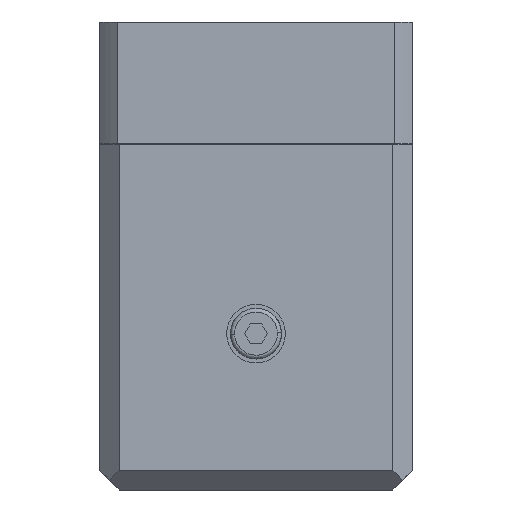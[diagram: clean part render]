
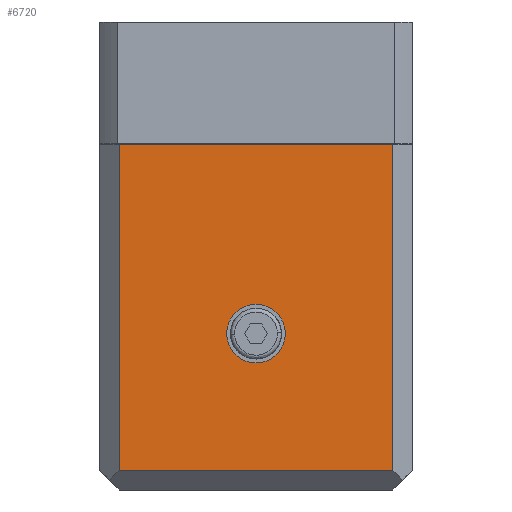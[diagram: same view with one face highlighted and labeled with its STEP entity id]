
A CAD part, left-side view. The second image highlights one B-rep face of the part: STEP entity #6720.
In plain terms, the highlighted planar face has unit normal (-1, 0, 0).
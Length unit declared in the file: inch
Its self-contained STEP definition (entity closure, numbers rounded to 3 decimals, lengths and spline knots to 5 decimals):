
#501 = DIRECTION ( 'NONE',  ( 0., 0., 1. ) ) ;
#568 = CARTESIAN_POINT ( 'NONE',  ( -7.24409, 0., 0. ) ) ;
#961 = CARTESIAN_POINT ( 'NONE',  ( -7.24409, 1.37795, 1.90551 ) ) ;
#1135 = CARTESIAN_POINT ( 'NONE',  ( -7.24409, -1.37795, -1.37795 ) ) ;
#1398 = CIRCLE ( 'NONE', #10341, 0.29528 ) ;
#1640 = DIRECTION ( 'NONE',  ( 0., 0., 1. ) ) ;
#1732 = CARTESIAN_POINT ( 'NONE',  ( -7.24409, 0., 0. ) ) ;
#1811 = FACE_BOUND ( 'NONE', #12477, .T. ) ;
#2785 = CARTESIAN_POINT ( 'NONE',  ( -7.24409, 0., 1.90551 ) ) ;
#2868 = ORIENTED_EDGE ( 'NONE', *, *, #6209, .F. ) ;
#3693 = CARTESIAN_POINT ( 'NONE',  ( -7.24409, -1.37795, 1.90551 ) ) ;
#3711 = ORIENTED_EDGE ( 'NONE', *, *, #7466, .T. ) ;
#3772 = VERTEX_POINT ( 'NONE', #3693 ) ;
#4351 = FACE_OUTER_BOUND ( 'NONE', #10301, .T. ) ;
#4658 = LINE ( 'NONE', #12802, #7913 ) ;
#4868 = VERTEX_POINT ( 'NONE', #13980 ) ;
#4910 = VECTOR ( 'NONE', #12925, 39.37008 ) ;
#5004 = DIRECTION ( 'NONE',  ( -1., 0., 0. ) ) ;
#5288 = CARTESIAN_POINT ( 'NONE',  ( -7.24409, 1.37795, 0.16732 ) ) ;
#5394 = LINE ( 'NONE', #2785, #13427 ) ;
#5718 = CIRCLE ( 'NONE', #8071, 0.29528 ) ;
#5920 = EDGE_CURVE ( 'NONE', #9836, #7004, #8834, .T. ) ;
#6049 = PLANE ( 'NONE',  #9518 ) ;
#6209 = EDGE_CURVE ( 'NONE', #9836, #6228, #13283, .T. ) ;
#6228 = VERTEX_POINT ( 'NONE', #961 ) ;
#6245 = DIRECTION ( 'NONE',  ( 0., 0., 1. ) ) ;
#6720 = ADVANCED_FACE ( 'NONE', ( #1811, #4351 ), #6049, .T. ) ;
#6943 = CARTESIAN_POINT ( 'NONE',  ( -7.24409, 0., -1.37795 ) ) ;
#7004 = VERTEX_POINT ( 'NONE', #1135 ) ;
#7013 = DIRECTION ( 'NONE',  ( 1., 0., 0. ) ) ;
#7427 = VERTEX_POINT ( 'NONE', #8347 ) ;
#7466 = EDGE_CURVE ( 'NONE', #7004, #3772, #4658, .T. ) ;
#7913 = VECTOR ( 'NONE', #6245, 39.37008 ) ;
#8071 = AXIS2_PLACEMENT_3D ( 'NONE', #568, #8155, #1640 ) ;
#8155 = DIRECTION ( 'NONE',  ( 1., 0., 0. ) ) ;
#8220 = EDGE_CURVE ( 'NONE', #7427, #4868, #1398, .T. ) ;
#8261 = ORIENTED_EDGE ( 'NONE', *, *, #8220, .T. ) ;
#8347 = CARTESIAN_POINT ( 'NONE',  ( -7.24409, 0., 0.29528 ) ) ;
#8483 = VECTOR ( 'NONE', #9066, 39.37008 ) ;
#8834 = LINE ( 'NONE', #6943, #8483 ) ;
#9066 = DIRECTION ( 'NONE',  ( 0., -1., 0. ) ) ;
#9300 = DIRECTION ( 'NONE',  ( 0., 1., 0. ) ) ;
#9518 = AXIS2_PLACEMENT_3D ( 'NONE', #1732, #5004, #12653 ) ;
#9638 = EDGE_CURVE ( 'NONE', #3772, #6228, #5394, .T. ) ;
#9670 = ORIENTED_EDGE ( 'NONE', *, *, #5920, .T. ) ;
#9836 = VERTEX_POINT ( 'NONE', #10664 ) ;
#10131 = EDGE_CURVE ( 'NONE', #4868, #7427, #5718, .T. ) ;
#10301 = EDGE_LOOP ( 'NONE', ( #3711, #11256, #2868, #9670 ) ) ;
#10341 = AXIS2_PLACEMENT_3D ( 'NONE', #13532, #7013, #501 ) ;
#10664 = CARTESIAN_POINT ( 'NONE',  ( -7.24409, 1.37795, -1.37795 ) ) ;
#11256 = ORIENTED_EDGE ( 'NONE', *, *, #9638, .T. ) ;
#12393 = ORIENTED_EDGE ( 'NONE', *, *, #10131, .T. ) ;
#12477 = EDGE_LOOP ( 'NONE', ( #8261, #12393 ) ) ;
#12653 = DIRECTION ( 'NONE',  ( 0., 0., 1. ) ) ;
#12802 = CARTESIAN_POINT ( 'NONE',  ( -7.24409, -1.37795, 0. ) ) ;
#12925 = DIRECTION ( 'NONE',  ( 0., 0., 1. ) ) ;
#13283 = LINE ( 'NONE', #5288, #4910 ) ;
#13427 = VECTOR ( 'NONE', #9300, 39.37008 ) ;
#13532 = CARTESIAN_POINT ( 'NONE',  ( -7.24409, 0., 0. ) ) ;
#13980 = CARTESIAN_POINT ( 'NONE',  ( -7.24409, 0., -0.29528 ) ) ;
